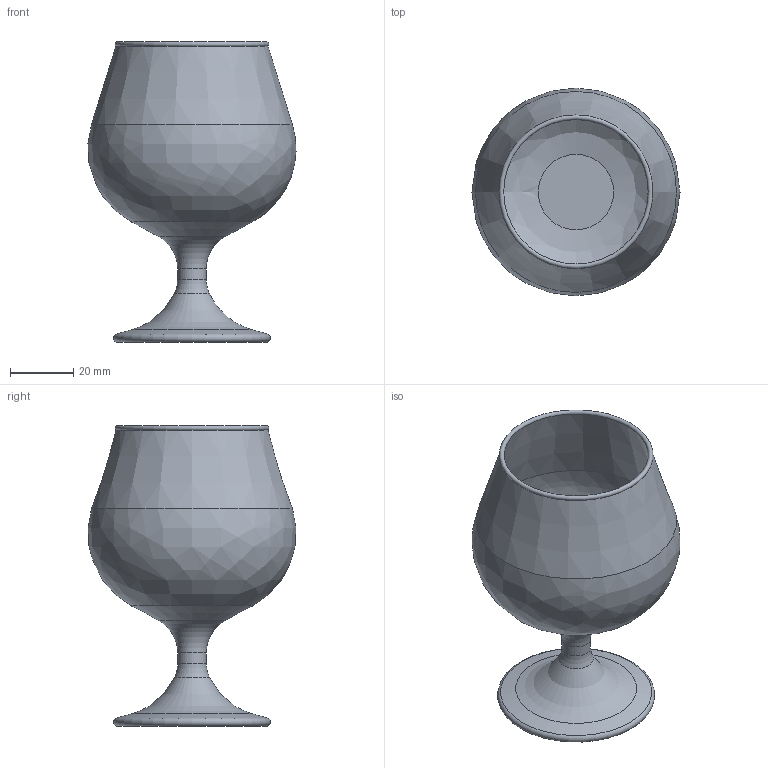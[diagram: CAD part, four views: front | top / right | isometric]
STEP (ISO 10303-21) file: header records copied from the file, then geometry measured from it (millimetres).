
FILE_DESCRIPTION((''),'2;1');
FILE_NAME('C:\Users\User\Desktop\Mastercam-harjoitukset\Cognac_Glass.stp','2020-04-19T11:38:05',(''),(''),'STEP Write','Mastercam 2020 ... CNC Software, Inc.','');
FILE_SCHEMA(('AUTOMOTIVE_DESIGN'));
Length unit declared in the file: millimetre
Products named in the file (1): None
Bounding box: 65.72 x 65.67 x 94.87 mm (x, y, z)
Volume: 48070.6 mm3; surface area: 28068.1 mm2
Topology: 1 solids, 1 shells, 342 faces, 1167 edges, 1151 vertices
Faces by surface type: plane 213, bspline 108, cylinder 12, torus 5, cone 4
Full cylindrical faces by diameter (mm): 9.043 x1
Entity records: 13222 total; most frequent: CARTESIAN_POINT 4125, ORIENTED_EDGE 1738, DIRECTION 1358, EDGE_CURVE 869, VECTOR 792, LINE 792, STYLED_ITEM 626, VERTEX_POINT 584
